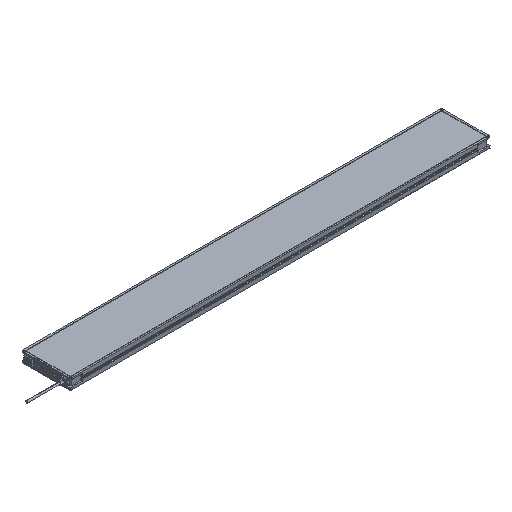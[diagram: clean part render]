
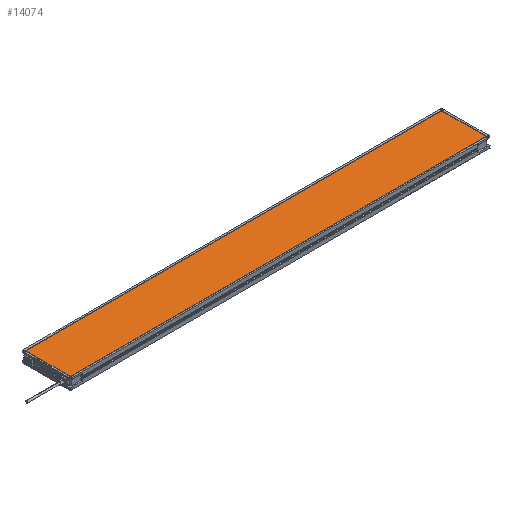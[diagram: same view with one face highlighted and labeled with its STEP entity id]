
A CAD part, isometric view. The second image highlights one B-rep face of the part: STEP entity #14074.
In plain terms, the highlighted planar face has unit normal (0, 0, 1).
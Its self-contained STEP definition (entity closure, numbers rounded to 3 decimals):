
#677 = ORIENTED_EDGE ( 'NONE', *, *, #15984, .T. ) ;
#721 = CARTESIAN_POINT ( 'NONE',  ( 0., 0., 41.85 ) ) ;
#902 = PLANE ( 'NONE',  #16411 ) ;
#1316 = CARTESIAN_POINT ( 'NONE',  ( 4., 196., 41.85 ) ) ;
#2532 = VERTEX_POINT ( 'NONE', #7756 ) ;
#3178 = CARTESIAN_POINT ( 'NONE',  ( 1796., 0., 41.85 ) ) ;
#3310 = DIRECTION ( 'NONE',  ( -1., 0., 0. ) ) ;
#3629 = DIRECTION ( 'NONE',  ( -1., 0., 0. ) ) ;
#3853 = EDGE_LOOP ( 'NONE', ( #11468, #4284, #8860, #677 ) ) ;
#4284 = ORIENTED_EDGE ( 'NONE', *, *, #4353, .T. ) ;
#4353 = EDGE_CURVE ( 'NONE', #11673, #6929, #12803, .T. ) ;
#6555 = VECTOR ( 'NONE', #7558, 1000. ) ;
#6929 = VERTEX_POINT ( 'NONE', #1316 ) ;
#6951 = CARTESIAN_POINT ( 'NONE',  ( 0., 4., 41.85 ) ) ;
#7258 = CARTESIAN_POINT ( 'NONE',  ( 4., 4., 41.85 ) ) ;
#7558 = DIRECTION ( 'NONE',  ( 0., 1., 0. ) ) ;
#7756 = CARTESIAN_POINT ( 'NONE',  ( 1796., 4., 41.85 ) ) ;
#8860 = ORIENTED_EDGE ( 'NONE', *, *, #16272, .T. ) ;
#8940 = VECTOR ( 'NONE', #3310, 1000. ) ;
#9446 = VERTEX_POINT ( 'NONE', #7258 ) ;
#10050 = LINE ( 'NONE', #6951, #14700 ) ;
#10868 = LINE ( 'NONE', #13339, #11506 ) ;
#11255 = DIRECTION ( 'NONE',  ( 1., 0., 0. ) ) ;
#11468 = ORIENTED_EDGE ( 'NONE', *, *, #16480, .T. ) ;
#11506 = VECTOR ( 'NONE', #15059, 1000. ) ;
#11527 = CARTESIAN_POINT ( 'NONE',  ( 0., 196., 41.85 ) ) ;
#11586 = LINE ( 'NONE', #3178, #6555 ) ;
#11673 = VERTEX_POINT ( 'NONE', #14269 ) ;
#12803 = LINE ( 'NONE', #11527, #8940 ) ;
#13041 = DIRECTION ( 'NONE',  ( 0., 0., -1. ) ) ;
#13224 = FACE_OUTER_BOUND ( 'NONE', #3853, .T. ) ;
#13339 = CARTESIAN_POINT ( 'NONE',  ( 4., 0., 41.85 ) ) ;
#14074 = ADVANCED_FACE ( 'NONE', ( #13224 ), #902, .F. ) ;
#14269 = CARTESIAN_POINT ( 'NONE',  ( 1796., 196., 41.85 ) ) ;
#14700 = VECTOR ( 'NONE', #11255, 1000. ) ;
#15059 = DIRECTION ( 'NONE',  ( 0., -1., 0. ) ) ;
#15984 = EDGE_CURVE ( 'NONE', #9446, #2532, #10050, .T. ) ;
#16272 = EDGE_CURVE ( 'NONE', #6929, #9446, #10868, .T. ) ;
#16411 = AXIS2_PLACEMENT_3D ( 'NONE', #721, #13041, #3629 ) ;
#16480 = EDGE_CURVE ( 'NONE', #2532, #11673, #11586, .T. ) ;
